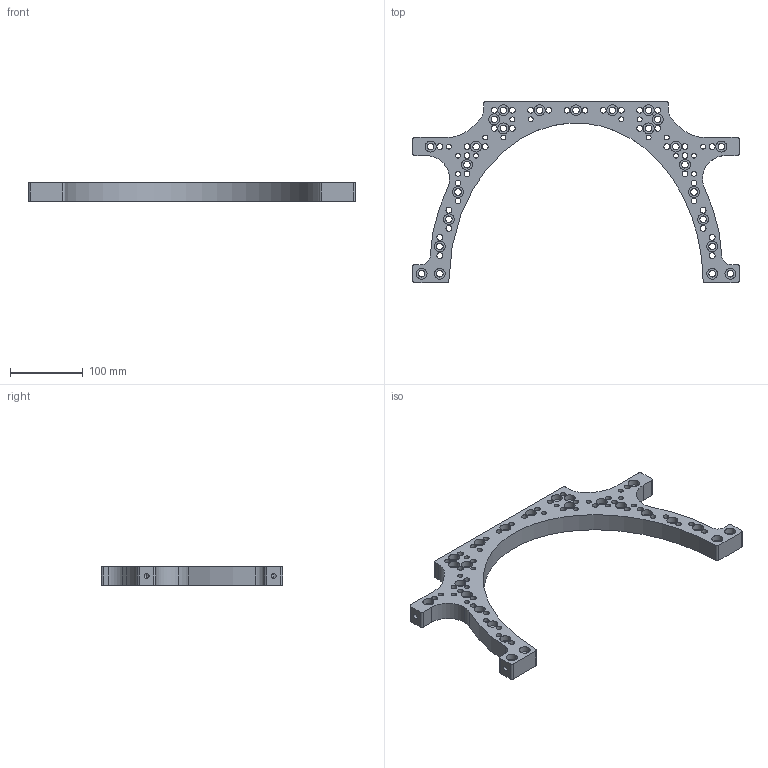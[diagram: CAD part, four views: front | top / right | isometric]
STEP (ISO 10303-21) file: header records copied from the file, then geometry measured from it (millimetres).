
FILE_DESCRIPTION (( 'STEP AP214' ), '1' );
FILE_NAME ('ABTS-1001 (CATALOG MODEL).STEP', '2026-08-03T22:07:54', ( '' ), ( '' ), 'SwSTEP 2.0', 'SolidWorks 2025', '' );
FILE_SCHEMA (( 'AUTOMOTIVE_DESIGN' ));
Length unit declared in the file: inch
Products named in the file (1): ABTS-1001 (CATALOG MODEL)
Bounding box: 450 x 250.04 x 25.4 mm (x, y, z)
Volume: 673263.7 mm3; surface area: 160359.5 mm2
Topology: 1 solids, 1 shells, 375 faces, 963 edges, 632 vertices
Faces by surface type: cylinder 291, plane 67, cone 12, bspline 5
Entity records: 12119 total; most frequent: DIRECTION 2253, CARTESIAN_POINT 2180, ORIENTED_EDGE 1902, EDGE_CURVE 951, AXIS2_PLACEMENT_3D 949, VERTEX_POINT 632, EDGE_LOOP 587, CIRCLE 578
